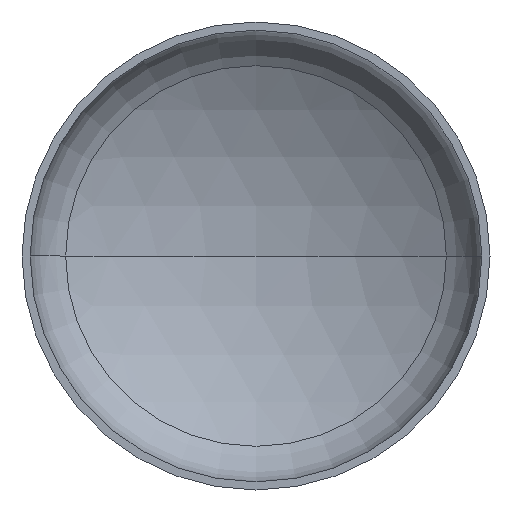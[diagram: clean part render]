
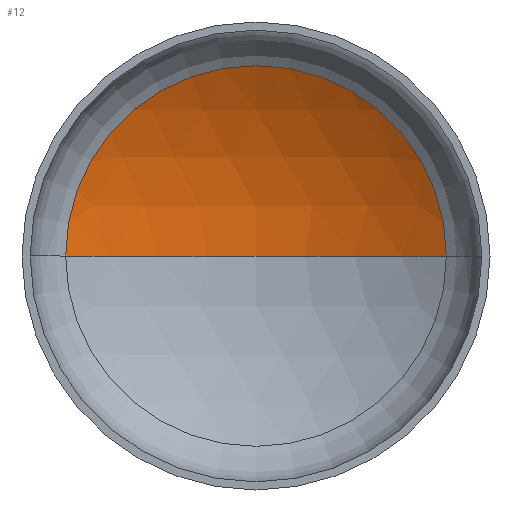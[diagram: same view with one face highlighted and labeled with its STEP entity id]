
A CAD part, front view. The second image highlights one B-rep face of the part: STEP entity #12.
In plain terms, the highlighted spherical face has radius 960 mm.
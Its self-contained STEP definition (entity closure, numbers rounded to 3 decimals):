
#12 = ADVANCED_FACE ( 'NONE', ( #142 ), #313, .F. ) ;
#16 = ORIENTED_EDGE ( 'NONE', *, *, #136, .T. ) ;
#19 = EDGE_LOOP ( 'NONE', ( #135, #16, #121 ) ) ;
#31 = AXIS2_PLACEMENT_3D ( 'NONE', #266, #264, #280 ) ;
#39 = AXIS2_PLACEMENT_3D ( 'NONE', #112, #158, #322 ) ;
#47 = AXIS2_PLACEMENT_3D ( 'NONE', #216, #218, #198 ) ;
#68 = AXIS2_PLACEMENT_3D ( 'NONE', #378, #283, #285 ) ;
#96 = VERTEX_POINT ( 'NONE', #365 ) ;
#102 = EDGE_CURVE ( 'NONE', #106, #130, #238, .T. ) ;
#106 = VERTEX_POINT ( 'NONE', #289 ) ;
#112 = CARTESIAN_POINT ( 'NONE',  ( 0., -597.375, 0. ) ) ;
#121 = ORIENTED_EDGE ( 'NONE', *, *, #102, .T. ) ;
#130 = VERTEX_POINT ( 'NONE', #219 ) ;
#135 = ORIENTED_EDGE ( 'NONE', *, *, #156, .F. ) ;
#136 = EDGE_CURVE ( 'NONE', #96, #106, #171, .T. ) ;
#142 = FACE_OUTER_BOUND ( 'NONE', #19, .T. ) ;
#156 = EDGE_CURVE ( 'NONE', #96, #130, #231, .T. ) ;
#158 = DIRECTION ( 'NONE',  ( 0., 0., -1. ) ) ;
#171 = CIRCLE ( 'NONE', #39, 960. ) ;
#198 = DIRECTION ( 'NONE',  ( 1., 0., 0. ) ) ;
#216 = CARTESIAN_POINT ( 'NONE',  ( 0., 229.309, 0. ) ) ;
#218 = DIRECTION ( 'NONE',  ( 0., -1., 0. ) ) ;
#219 = CARTESIAN_POINT ( 'NONE',  ( -488.052, 229.309, 0. ) ) ;
#231 = CIRCLE ( 'NONE', #31, 960. ) ;
#238 = CIRCLE ( 'NONE', #47, 488.052 ) ;
#264 = DIRECTION ( 'NONE',  ( 0., 0., 1. ) ) ;
#266 = CARTESIAN_POINT ( 'NONE',  ( 0., -597.375, 0. ) ) ;
#280 = DIRECTION ( 'NONE',  ( 1., 0., 0. ) ) ;
#283 = DIRECTION ( 'NONE',  ( 0., 0., -1. ) ) ;
#285 = DIRECTION ( 'NONE',  ( -1., 0., 0. ) ) ;
#289 = CARTESIAN_POINT ( 'NONE',  ( 488.052, 229.309, 0. ) ) ;
#313 = SPHERICAL_SURFACE ( 'NONE', #68, 960. ) ;
#322 = DIRECTION ( 'NONE',  ( -1., 0., 0. ) ) ;
#365 = CARTESIAN_POINT ( 'NONE',  ( 0., 362.625, 0. ) ) ;
#378 = CARTESIAN_POINT ( 'NONE',  ( 0., -597.375, 0. ) ) ;
